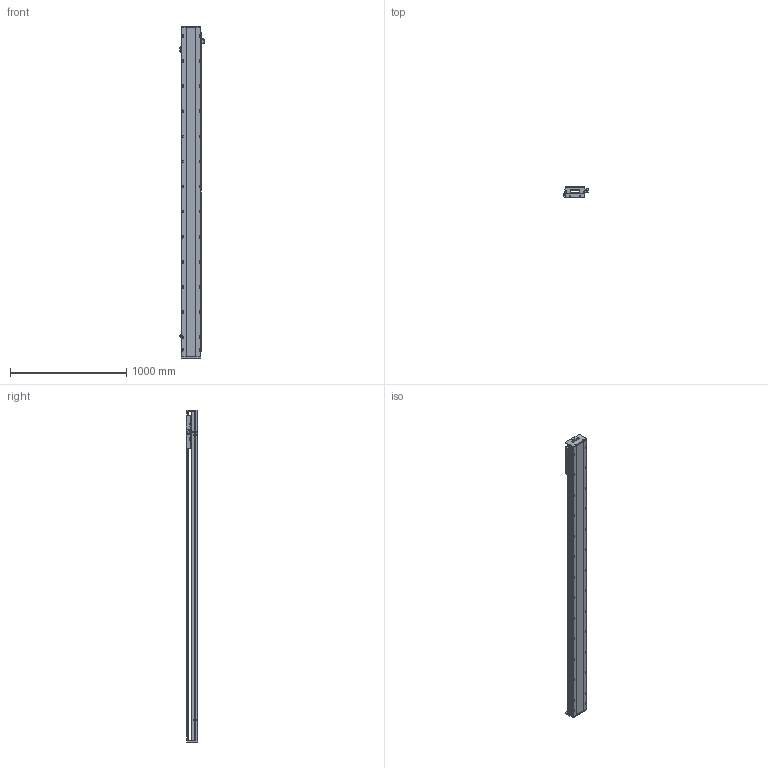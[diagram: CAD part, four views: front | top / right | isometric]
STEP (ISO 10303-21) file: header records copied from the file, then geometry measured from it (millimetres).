
FILE_DESCRIPTION (( 'STEP AP203' ), '1' );
FILE_NAME ('SKR17S-C2-S2476（简）.STEP', '2022-09-29T08:24:09', ( '' ), ( '' ), 'SwSTEP 2.0', 'SolidWorks 2018', '' );
FILE_SCHEMA (( 'CONFIG_CONTROL_DESIGN' ));
Length unit declared in the file: millimetre
Products named in the file (8): 棠掑假蚾輸; SKR17耜啣; SKR17S-C2-S2476（简）; SKR17底座-C2-S2476（简); 感应片（SKR12S-14S-17S）; SIKO棠掑; EE-SX672; SKR17滑台-280L（简）
Assembly tree (10 placements, depth 2):
  SKR17S-C2-S2476（简）
    SKR17底座-C2-S2476（简)
    SIKO棠掑
    EE-SX672  x3
    SKR17耜啣  x2
    棠掑假蚾輸
    SKR17滑台-280L（简）
    感应片（SKR12S-14S-17S）
Bounding box: 212.7 x 97 x 2856 mm (x, y, z)
Volume: 22050452.6 mm3; surface area: 2658978.2 mm2
Topology: 11 solids, 11 shells, 1480 faces, 4145 edges, 2659 vertices
Faces by surface type: cylinder 751, plane 579, cone 150
Entity records: 46883 total; most frequent: CARTESIAN_POINT 13023, ORIENTED_EDGE 7238, DIRECTION 6497, EDGE_CURVE 3619, VERTEX_POINT 2363, AXIS2_PLACEMENT_3D 2317, VECTOR 1863, LINE 1863
